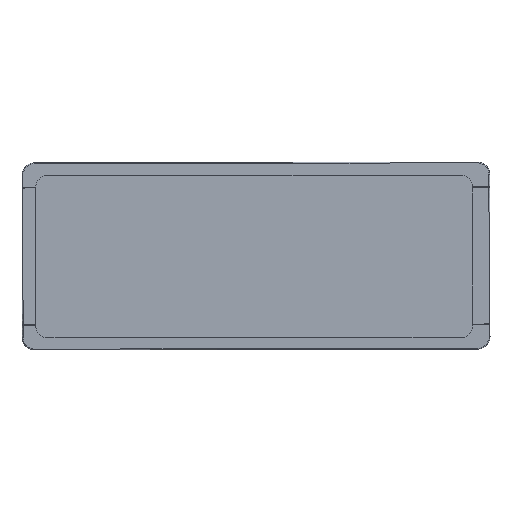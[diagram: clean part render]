
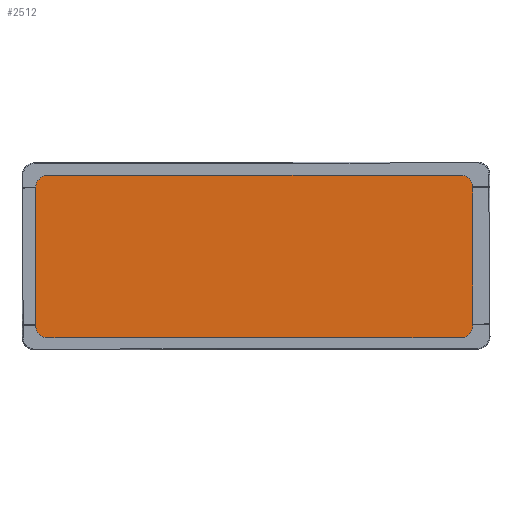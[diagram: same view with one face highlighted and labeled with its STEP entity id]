
A CAD part, top view. The second image highlights one B-rep face of the part: STEP entity #2512.
In plain terms, the highlighted planar face has unit normal (0, 0, 1).
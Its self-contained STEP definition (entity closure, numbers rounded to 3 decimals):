
#370=(
BOUNDED_CURVE()
B_SPLINE_CURVE(2,(#17139,#17140,#17141,#17142,#17143,#17144,#17145,#17146,
#17147),.UNSPECIFIED.,.F.,.F.)
B_SPLINE_CURVE_WITH_KNOTS((3,2,2,2,3),(9793.824,11473.839,
11552.378,12113.684,12192.224),.UNSPECIFIED.)
CURVE()
GEOMETRIC_REPRESENTATION_ITEM()
RATIONAL_B_SPLINE_CURVE((1.,1.,1.,0.707,1.,1.,1.,0.707,
1.))
REPRESENTATION_ITEM('')
);
#372=(
BOUNDED_CURVE()
B_SPLINE_CURVE(2,(#17159,#17160,#17161,#17162,#17163,#17164,#17165,#17166,
#17167),.UNSPECIFIED.,.F.,.F.)
B_SPLINE_CURVE_WITH_KNOTS((3,2,2,2,3),(12192.224,13872.239,
13950.779,14512.085,14590.625),.UNSPECIFIED.)
CURVE()
GEOMETRIC_REPRESENTATION_ITEM()
RATIONAL_B_SPLINE_CURVE((1.,1.,1.,0.707,1.,1.,1.,0.707,
1.))
REPRESENTATION_ITEM('')
);
#2512=ADVANCED_FACE('',(#2728),#6337,.T.);
#2728=FACE_OUTER_BOUND('',#2957,.T.);
#2957=EDGE_LOOP('',(#3969,#3970));
#3969=ORIENTED_EDGE('',*,*,#4865,.T.);
#3970=ORIENTED_EDGE('',*,*,#4868,.T.);
#4865=EDGE_CURVE('',#6268,#6270,#370,.T.);
#4868=EDGE_CURVE('',#6270,#6268,#372,.T.);
#6268=VERTEX_POINT('',#17125);
#6270=VERTEX_POINT('',#17127);
#6337=PLANE('',#6424);
#6424=AXIS2_PLACEMENT_3D('',#17105,#6495,$);
#6495=DIRECTION('',(0.,0.,1.));
#17105=CARTESIAN_POINT('',(-914.437,-334.594,397.093));
#17125=CARTESIAN_POINT('',(-846.637,-327.981,397.093));
#17127=CARTESIAN_POINT('',(833.378,333.325,397.093));
#17139=CARTESIAN_POINT('',(-846.637,-327.981,397.093));
#17140=CARTESIAN_POINT('',(-6.629,-327.981,397.093));
#17141=CARTESIAN_POINT('',(833.378,-327.981,397.093));
#17142=CARTESIAN_POINT('',(883.378,-327.981,397.093));
#17143=CARTESIAN_POINT('',(883.378,-277.981,397.093));
#17144=CARTESIAN_POINT('',(883.378,2.672,397.093));
#17145=CARTESIAN_POINT('',(883.378,283.325,397.093));
#17146=CARTESIAN_POINT('',(883.378,333.325,397.093));
#17147=CARTESIAN_POINT('',(833.378,333.325,397.093));
#17159=CARTESIAN_POINT('',(833.378,333.325,397.093));
#17160=CARTESIAN_POINT('',(-6.629,333.325,397.093));
#17161=CARTESIAN_POINT('',(-846.637,333.325,397.093));
#17162=CARTESIAN_POINT('',(-896.637,333.325,397.093));
#17163=CARTESIAN_POINT('',(-896.637,283.325,397.093));
#17164=CARTESIAN_POINT('',(-896.637,2.672,397.093));
#17165=CARTESIAN_POINT('',(-896.637,-277.981,397.093));
#17166=CARTESIAN_POINT('',(-896.637,-327.981,397.093));
#17167=CARTESIAN_POINT('',(-846.637,-327.981,397.093));
